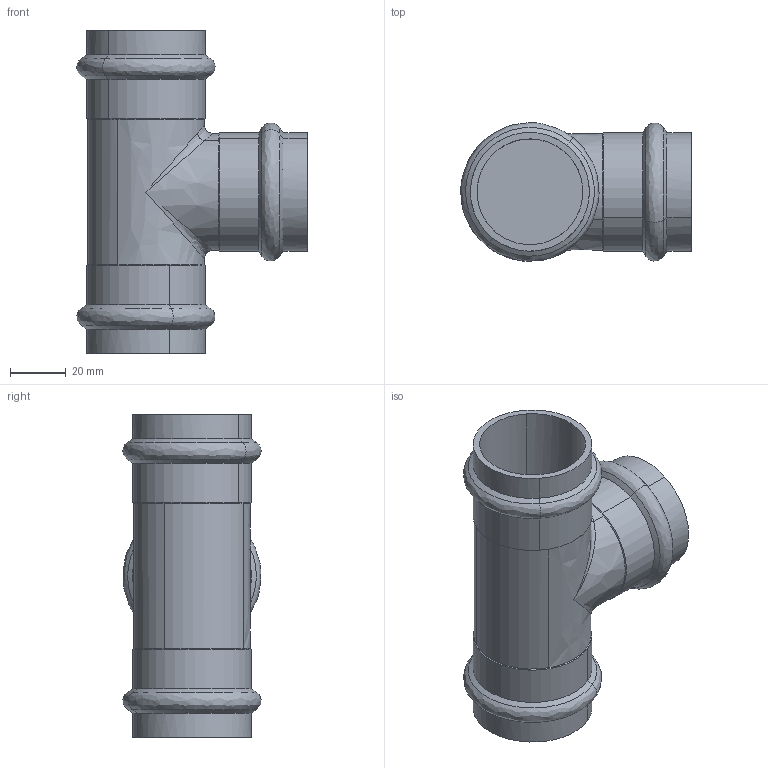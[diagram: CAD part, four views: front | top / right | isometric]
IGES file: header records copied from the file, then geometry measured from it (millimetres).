
Start section: 3D InterOp IGES (Version 25 0 1), Spatial Corp. Copyright (c) 1999-2007.
Global section: file name: pim0004525.igs; native system: Spatial Corp.; preprocessor: 3D InterOp ACIS/IGES; author: Cad-Pim; organization: TransMagic, Inc.; date: 20150430.163345; units: millimetre
Bounding box: 82.87 x 49.73 x 116 mm (x, y, z)
Volume: 124128 mm3; surface area: 36822.8 mm2
Topology: 1 solids, 1 shells, 57 faces, 154 edges, 98 vertices
Faces by surface type: cylinder 20, bspline 19, cone 18
